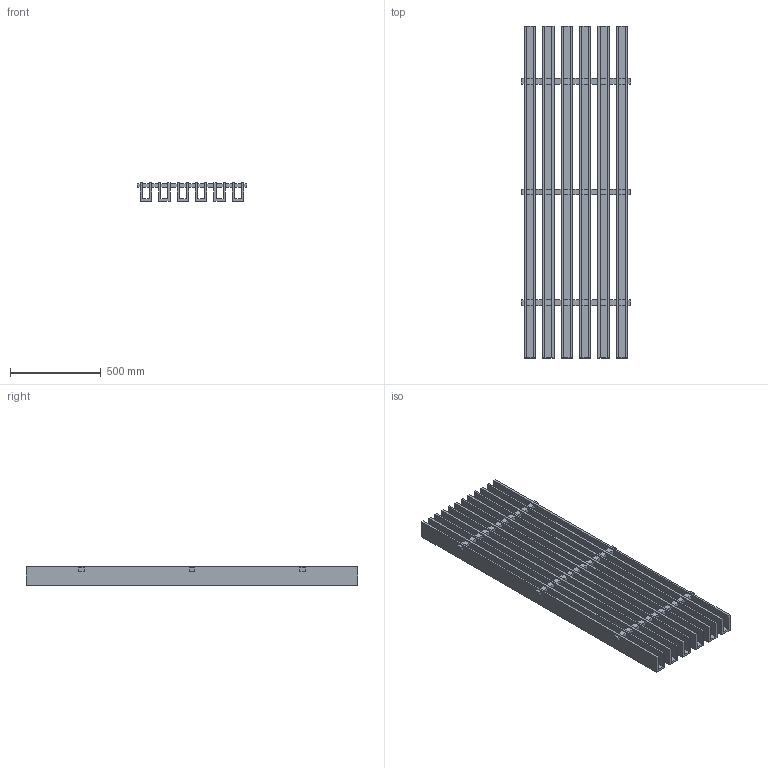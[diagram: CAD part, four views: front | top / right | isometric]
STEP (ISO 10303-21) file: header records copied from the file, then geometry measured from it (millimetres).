
FILE_DESCRIPTION(/* description */ (''),/* implementation_level */ '2;1');
FILE_NAME(/* name */ 'PET GRILLA_2.5x4_6ft',/* time_stamp */ '2024-10-15T14:21:56-05:00',/* author */ (''),/* organization */ (''),/* preprocessor_version */ 'ST-DEVELOPER v19.2',/* originating_system */ 'Rhino 8.4',/* authorisation */ '');
FILE_SCHEMA (('CONFIG_CONTROL_DESIGN'));
Length unit declared in the file: inch
Products named in the file (1): Document
Bounding box: 603.25 x 1828.8 x 101.6 mm (x, y, z)
Volume: 34444328.3 mm3; surface area: 5708456.3 mm2
Topology: 1 solids, 1 shells, 222 faces, 612 edges, 408 vertices
Faces by surface type: plane 222
Entity records: 6282 total; most frequent: CARTESIAN_POINT 1856, ORIENTED_EDGE 1224, EDGE_CURVE 612, B_SPLINE_CURVE_WITH_KNOTS 612, VERTEX_POINT 408, EDGE_LOOP 294, DIRECTION 226, AXIS2_PLACEMENT_3D 224
